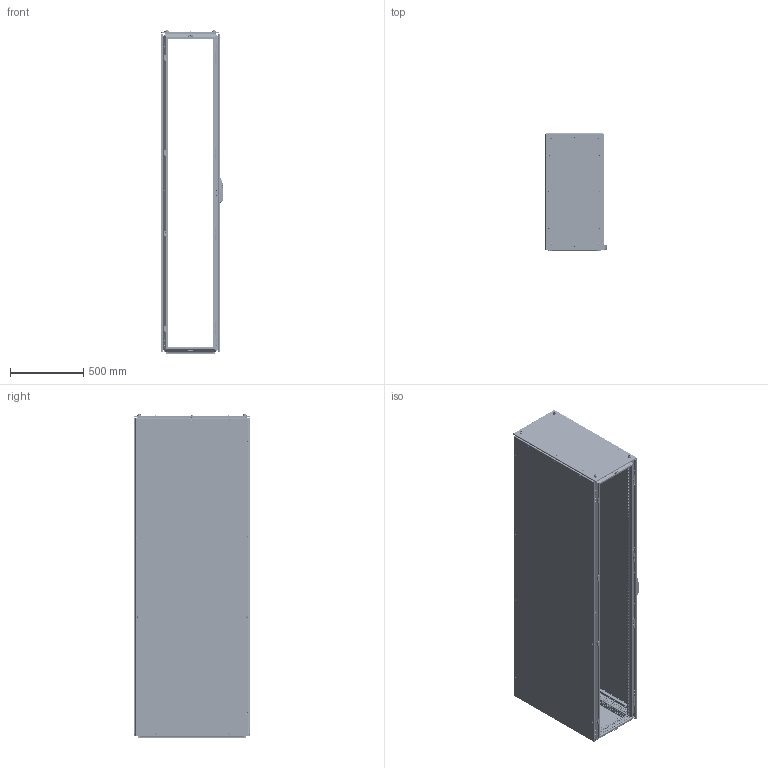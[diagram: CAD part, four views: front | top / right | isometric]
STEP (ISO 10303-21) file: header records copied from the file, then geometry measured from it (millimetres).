
FILE_DESCRIPTION(('STEP AP203'), '1');
FILE_NAME('ØÍÑ ÊÑ PRO II Êîðïóñ ÑÁ', '', ('UNSPECIFIED'), ('UNSPECIFIED'), 'C3D Converter', 'C3D Toolkit', '');
FILE_SCHEMA(('CONFIG_CONTROL_DESIGN'));
Length unit declared in the file: millimetre
Products named in the file (49): 3110.220.80.40; 3000; 3007.175; 3007.75; 3009.04; 3009.04.01; 3009.04.2; 3009.04.01.2; 3301; 3310; 3311; 3302; 3211; 3410; 3420; 3421; 3422.01; 3412; 3411; 2952; 3009.05; 3009.05.01; 3622.01; 3009.08; 3009.08.01
Assembly tree (290 placements, depth 5):
  3110.220.80.40
    3000
      3000
      (unnamed)  x88
      3007.175
      (unnamed)  x6
      3007.75
      3009.04  x8
        3009.04.01
        (unnamed)
        (unnamed)
      3009.04.2  x13
        3009.04.01.2
        (unnamed)
        (unnamed)
    3301
      3310
        3311
        (unnamed)
      (unnamed)  x8
      (unnamed)  x8
      (unnamed)  x4
      (unnamed)  x4
    3302
      3211
      (unnamed)  x2
      (unnamed)  x14
    3410
      3420
        3421
        3422.01  x4
        (unnamed)  x14
        (unnamed)  x8
        (unnamed)  x2
      3412  x2
      3411  x2
      (unnamed)  x4
      (unnamed)  x14
      (unnamed)  x22
      (unnamed)  x8
      2952
        (unnamed)
          (unnamed)
          (unnamed)
          (unnamed)
          (unnamed)
          (unnamed)
      (unnamed)  x2
      3009.05  x4
        3009.05.01
        (unnamed)
        (unnamed)
      3622.01  x4
      (unnamed)  x4
      3009.08  x4
        3009.08.01
        (unnamed)
        (unnamed)
Bounding box: 424.04 x 797.07 x 2216 mm (x, y, z)
Volume: 11107856.4 mm3; surface area: 14201226.9 mm2
Topology: 385 solids, 385 shells, 22050 faces, 60576 edges, 39874 vertices
Faces by surface type: plane 15017, cylinder 5338, cone 1117, torus 360, bspline 191, sphere 27
Full cylindrical faces by diameter (mm): 0.5 x22, 4.134 x130, 4.3 x2, 4.5 x2164, 4.8 x6, 4.917 x22, 5 x176, 5.2 x1, 5.5 x8, 5.8 x42, 6 x53, 6.1 x4, 6.6 x22, 6.75 x22, 6.8 x176, 7 x96, 7.3 x22, 7.5 x72, 8 x108, 8.3 x16, 8.5 x9, 9.2 x74, 10 x31, 10.106 x8, 10.5 x4, 11.5 x10, 12 x30, 13 x1, 13.5 x4, 14 x8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
Entity records: 478357 total; most frequent: CARTESIAN_POINT 104051, ORIENTED_EDGE 71628, DIRECTION 68112, EDGE_CURVE 35814, LINE 28306, VECTOR 28306, VERTEX_POINT 25113, EDGE_LOOP 24175
